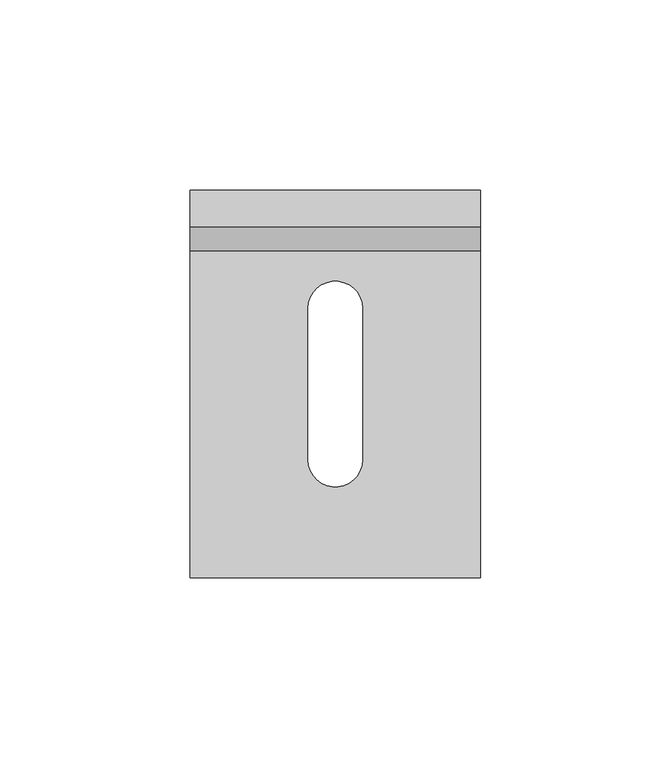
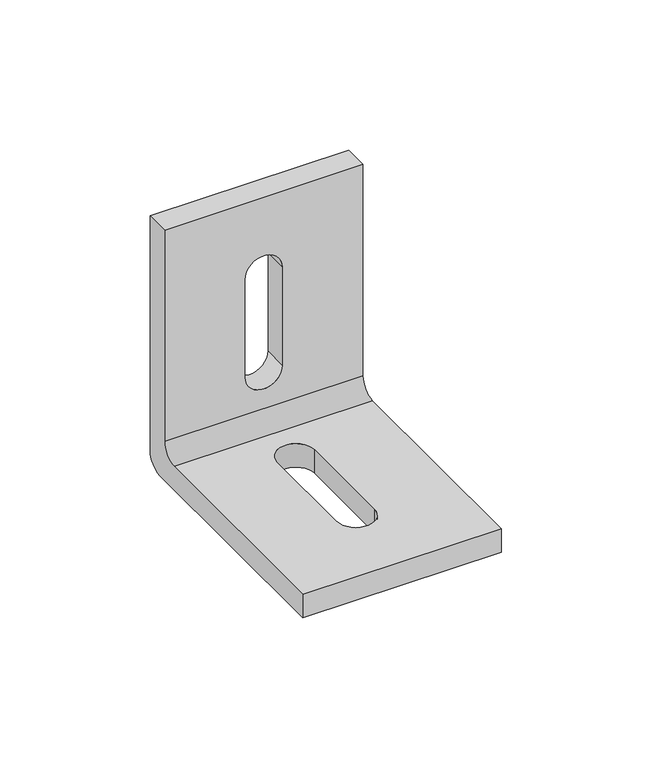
"""IFC4 building model written with IfcOpenShell, lengths in millimetres: proxy geometry, 14NSF-A53 : 14NSF-A53."""

from ifc_helpers import new_model, si_unit, frame, origin, place, context, project, spatial, polyline, circle_curve, source, transform, mapped, element, save
from ifc_brep_helpers import plane_surface, cylinder_surface, revolved_surface, advanced_brep


def generic_models_a543b304(model_context):
    return source(origin(), model_context, "Body", "AdvancedBrep", [
        advanced_brep(
        [(38.1, -101.6, 0.0), (38.1, -6.35, 0.0), (38.1, 0.0, 6.35), (38.1, 0.0, 101.6), (38.1, -9.525, 101.6), (38.1, -9.525, 15.875), (38.1, -15.875, 9.525), (38.1, -101.6, 9.525), (-38.1, -6.35, 0.0), (-38.1, -101.6, 0.0), (-38.1, -101.6, 9.525), (-38.1, -15.875, 9.525), (-38.1, -9.525, 15.875), (-38.1, -9.525, 101.6), (-38.1, 0.0, 101.6), (-38.1, 0.0, 6.35), (7.14375, -70.6499249, 0.0), (7.14375, -30.9500751, 0.0), (-7.14375, -30.9500751, 0.0), (-7.14375, -70.6499249, 0.0), (7.14375, 0.0, 30.9500751), (7.14375, 0.0, 70.6499249), (-7.14375, 0.0, 70.6499249), (-7.14375, 0.0, 30.9500751), (7.14375, -9.525, 70.6499249), (7.14375, -9.525, 30.9500751), (-7.14375, -9.525, 30.9500751), (-7.14375, -9.525, 70.6499249), (7.14375, -30.9500751, 9.525), (7.14375, -70.6499249, 9.525), (-7.14375, -70.6499249, 9.525), (-7.14375, -30.9500751, 9.525)],
        [
            (0, 1),
            (1, 2, circle_curve(frame((38.1, -6.35, 6.35), z_axis=(1.0, 0.0, 0.0), x_axis=(0.0, 1.0, 0.0)), 6.35)),
            (2, 3),
            (3, 4),
            (4, 5),
            (5, 6, circle_curve(frame((38.1, -15.875, 15.875), z_axis=(-1.0, 0.0, 0.0), x_axis=(0.0, 1.0, 0.0)), 6.35)),
            (6, 7),
            (7, 0),
            (8, 9),
            (9, 10),
            (10, 11),
            (11, 12, circle_curve(frame((-38.1, -15.875, 15.875), z_axis=(1.0, 0.0, 0.0), x_axis=(0.0, 1.0, 0.0)), 6.35)),
            (12, 13),
            (13, 14),
            (14, 15),
            (15, 8, circle_curve(frame((-38.1, -6.35, 6.35), z_axis=(-1.0, 0.0, 0.0), x_axis=(0.0, 1.0, 0.0)), 6.35)),
            (0, 9),
            (8, 1),
            (16, 17),
            (17, 18, circle_curve(frame((0.0, -30.9500751, 0.0), z_axis=(0.0, 0.0, 1.0), x_axis=(1.0, 0.0, 0.0)), 7.14375)),
            (18, 19),
            (19, 16, circle_curve(frame((0.0, -70.6499249, 0.0), z_axis=(0.0, 0.0, 1.0), x_axis=(1.0, 0.0, 0.0)), 7.14375)),
            (15, 2),
            (14, 3),
            (20, 21),
            (21, 22, circle_curve(frame((0.0, 0.0, 70.6499249), z_axis=(0.0, -1.0, 0.0), x_axis=(1.0, 0.0, 0.0)), 7.14375)),
            (22, 23),
            (23, 20, circle_curve(frame((0.0, 0.0, 30.9500751), z_axis=(0.0, -1.0, 0.0), x_axis=(1.0, 0.0, 0.0)), 7.14375)),
            (13, 4),
            (12, 5),
            (24, 25),
            (25, 26, circle_curve(frame((0.0, -9.525, 30.9500751), z_axis=(0.0, 1.0, 0.0), x_axis=(1.0, 0.0, 0.0)), 7.14375)),
            (26, 27),
            (27, 24, circle_curve(frame((0.0, -9.525, 70.6499249), z_axis=(0.0, 1.0, 0.0), x_axis=(1.0, 0.0, 0.0)), 7.14375)),
            (11, 6),
            (10, 7),
            (28, 29),
            (29, 30, circle_curve(frame((0.0, -70.6499249, 9.525), z_axis=(0.0, 0.0, -1.0), x_axis=(1.0, 0.0, 0.0)), 7.14375)),
            (30, 31),
            (31, 28, circle_curve(frame((0.0, -30.9500751, 9.525), z_axis=(0.0, 0.0, -1.0), x_axis=(1.0, 0.0, 0.0)), 7.14375)),
            (16, 29),
            (28, 17),
            (31, 18),
            (30, 19),
            (20, 25),
            (24, 21),
            (27, 22),
            (26, 23),
        ],
        [
            plane_surface(frame((38.1, -6.35, 0.0), z_axis=(1.0, 0.0, 0.0), x_axis=(0.0, 1.0, 0.0))),
            plane_surface(frame((-38.1, -6.35, 0.0), z_axis=(-1.0, 0.0, 0.0), x_axis=(0.0, -1.0, 0.0))),
            plane_surface(frame((38.1, -101.6, 0.0), z_axis=(0.0, 0.0, -1.0), x_axis=(-1.0, 0.0, 0.0))),
            cylinder_surface(frame((-38.1, -6.35, 6.35), z_axis=(1.0, 0.0, 0.0), x_axis=(0.0, 1.0, 0.0)), 6.35),
            plane_surface(frame((38.1, 0.0, 6.35), z_axis=(0.0, 1.0, 0.0), x_axis=(-1.0, 0.0, 0.0))),
            plane_surface(frame((38.1, 0.0, 101.6), z_axis=(0.0, 0.0, 1.0), x_axis=(-1.0, 0.0, 0.0))),
            plane_surface(frame((38.1, -9.525, 101.6), z_axis=(0.0, -1.0, 0.0), x_axis=(-1.0, 0.0, 0.0))),
            revolved_surface(polyline([(-38.1, -9.525, 15.875), (38.1, -9.525, 15.875)]), (-38.1, -15.875, 15.875), (-1.0, 0.0, 0.0)),
            plane_surface(frame((38.1, -15.875, 9.525), z_axis=(0.0, 0.0, 1.0), x_axis=(-1.0, 0.0, 0.0))),
            plane_surface(frame((38.1, -101.6, 9.525), z_axis=(0.0, -1.0, 0.0), x_axis=(-1.0, 0.0, 0.0))),
            plane_surface(frame((7.14375, -70.6499249, 12.7), z_axis=(-1.0, 0.0, 0.0), x_axis=(0.0, 0.0, -1.0))),
            revolved_surface(polyline([(7.14375, -30.9500751, 9.525), (7.14375, -30.9500751, 0.0)]), (0.0, -30.9500751, 0.0), (0.0, 0.0, 1.0)),
            plane_surface(frame((-7.14375, -30.9500751, 12.7), z_axis=(1.0, 0.0, 0.0), x_axis=(0.0, 0.0, -1.0))),
            revolved_surface(polyline([(7.14375, -70.6499249, 9.525), (7.14375, -70.6499249, 0.0)]), (0.0, -70.6499249, 0.0), (0.0, 0.0, 1.0)),
            plane_surface(frame((7.14375, -12.7, 30.9500751), z_axis=(-1.0, 0.0, 0.0), x_axis=(0.0, 1.0, 0.0))),
            revolved_surface(polyline([(7.14375, -9.525, 70.6499249), (7.14375, 0.0, 70.6499249)]), (0.0, 0.0, 70.6499249), (0.0, -1.0, 0.0)),
            plane_surface(frame((-7.14375, -12.7, 70.6499249), z_axis=(1.0, 0.0, 0.0), x_axis=(0.0, 1.0, 0.0))),
            revolved_surface(polyline([(7.14375, -9.525, 30.9500751), (7.14375, 0.0, 30.9500751)]), (0.0, 0.0, 30.9500751), (0.0, -1.0, 0.0)),
        ],
        [
            (0, [[1, 2, 3, 4, 5, 6, 7, 8]]),
            (1, [[9, 10, 11, 12, 13, 14, 15, 16]]),
            (2, [[-1, 17, -9, 18], [19, 20, 21, 22]]),
            (3, [[-2, -18, -16, 23]]),
            (4, [[-3, -23, -15, 24], [25, 26, 27, 28]]),
            (5, [[-4, -24, -14, 29]]),
            (6, [[-5, -29, -13, 30], [31, 32, 33, 34]]),
            (7, [[-6, -30, -12, 35]]),
            (8, [[-7, -35, -11, 36], [37, 38, 39, 40]]),
            (9, [[-8, -36, -10, -17]]),
            (10, [[-19, 41, -37, 42]]),
            (11, [[-20, -42, -40, 43]]),
            (12, [[-21, -43, -39, 44]]),
            (13, [[-22, -44, -38, -41]]),
            (14, [[45, -31, 46, -25]]),
            (15, [[-46, -34, 47, -26]]),
            (16, [[-47, -33, 48, -27]]),
            (17, [[-45, -28, -48, -32]]),
        ],
    ),
    ])


if __name__ == "__main__":
    model = new_model("IFC4")
    model_context = context("Model", 3, world=origin())
    ifc_project = project(units=[si_unit("LENGTHUNIT", "METRE", prefix="MILLI")], contexts=[model_context])
    site = spatial("IfcSite", under=ifc_project)
    building = spatial("IfcBuilding", under=site)
    placement = place(None, origin())
    generic_models_shape = generic_models_a543b304(model_context)
    element("IfcBuildingElementProxy", 1, Name="14NSF-A53 : 14NSF-A53", ObjectType="14NSF-A53 : 14NSF-A53", at=placement, inside=building, context=model_context, shape_type="MappedRepresentation", body=[
        mapped(generic_models_shape, transform((0.0, 0.0, 0.0), x_axis=(1.0, 0.0, 0.0), y_axis=(0.0, 1.0, 0.0), z_axis=(0.0, 0.0, 1.0))),
    ])
    save(model, "model.ifc")
